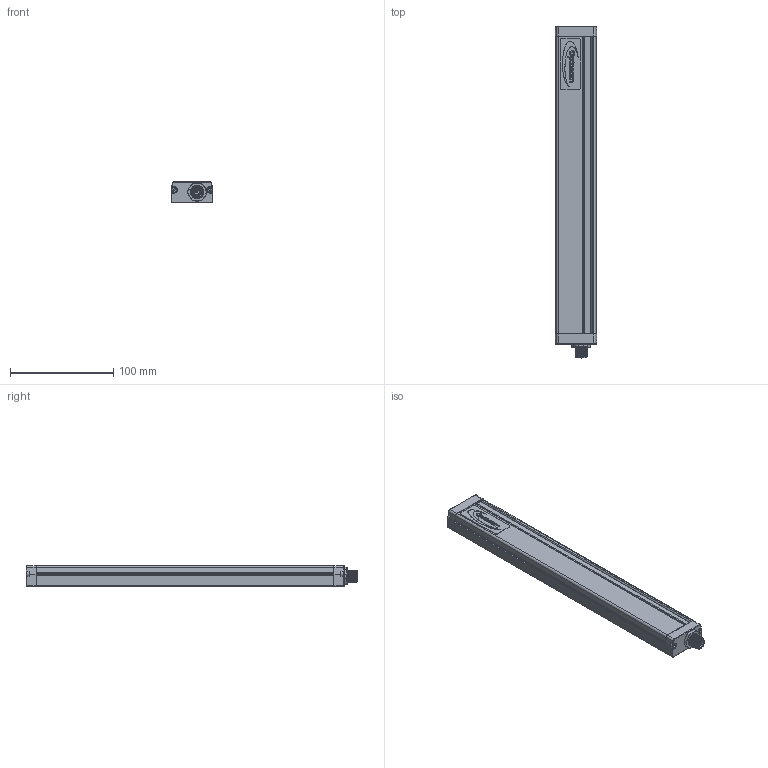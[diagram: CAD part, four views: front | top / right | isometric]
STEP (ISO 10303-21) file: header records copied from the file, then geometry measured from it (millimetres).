
FILE_DESCRIPTION(/* description */ (''),/* implementation_level */ '2;1');
FILE_NAME(/* name */ 'C:\Users\andre\SynologyDrive\Optoscan\Libreria Componenti\00 - Barriere\Polaris sorgente\Barriera Polaris RX\Polaris_290_RX.stp',/* time_stamp */ '2021-06-04T11:38:41+02:00',/* author */ ('andre'),/* organization */ (''),/* preprocessor_version */ 'ST-DEVELOPER v18',/* originating_system */ 'Autodesk Inventor 2020',/* authorisation */ '');
FILE_SCHEMA (('AUTOMOTIVE_DESIGN { 1 0 10303 214 3 1 1 }'));
Length unit declared in the file: millimetre
Products named in the file (1): Polaris_290_RX
Bounding box: 40.5 x 321.3 x 20.75 mm (x, y, z)
Volume: 67578 mm3; surface area: 84342.8 mm2
Topology: 1 solids, 1 shells, 700 faces, 1926 edges, 1237 vertices
Faces by surface type: plane 319, cylinder 199, bspline 94, torus 70, sphere 10, cone 8
Full cylindrical faces by diameter (mm): 1 x8, 2.459 x4, 2.5 x4, 3 x4, 3.5 x4, 5.5 x4, 8 x1, 10.5 x2, 11.75 x9, 15.7 x1, 17.5 x1
Entity records: 28472 total; most frequent: CARTESIAN_POINT 10246, ORIENTED_EDGE 3826, DIRECTION 3447, EDGE_CURVE 1913, VERTEX_POINT 1237, AXIS2_PLACEMENT_3D 1211, LINE 1025, VECTOR 1025
